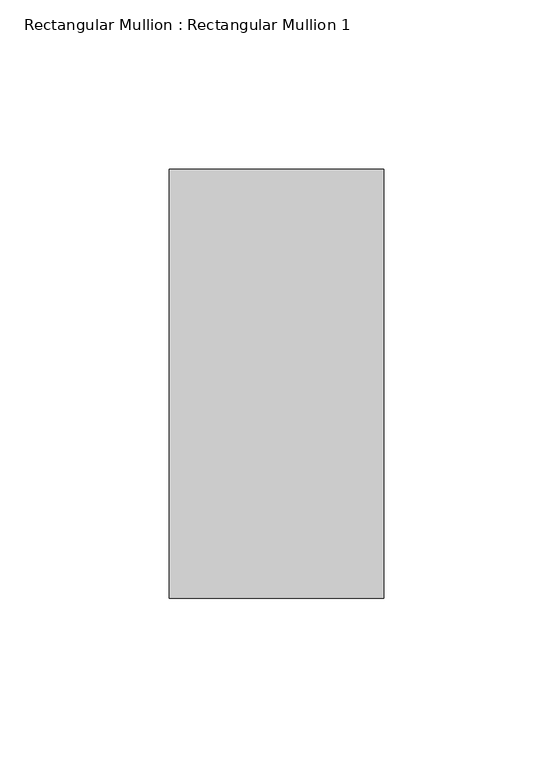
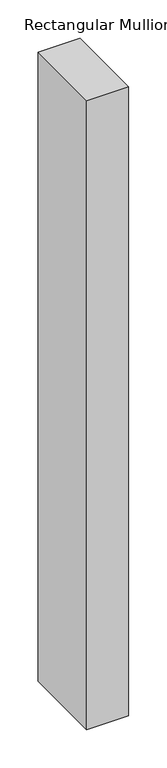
"""IFC4 building model written with IfcOpenShell, lengths in millimetres: member geometry, Rectangular Mullion : Rectangular Mullion 1."""

from ifc_helpers import new_model, si_unit, frame, origin, place, context, project, spatial, polyline, outline, extrude, source, transform, mapped, element, save


def rectangular_mullion_rectangular_mullion_1_16b13197(model_context):
    return source(origin(), model_context, "Body", "SweptSolid", [
        extrude(outline(polyline([(0.0, 63.5), (0.0, -63.5), (-63.5, -63.5), (-63.5, 63.5), (0.0, 63.5)])), frame((0.0, 0.0, -1003.2999999), z_axis=(0.0, 0.0, 1.0), x_axis=(1.0, 0.0, 0.0)), (0.0, 0.0, 1.0), 1003.2999999),
    ])


if __name__ == "__main__":
    model = new_model("IFC4")
    model_context = context("Model", 3, world=origin())
    ifc_project = project(units=[si_unit("LENGTHUNIT", "METRE", prefix="MILLI")], contexts=[model_context])
    site = spatial("IfcSite", under=ifc_project)
    building = spatial("IfcBuilding", under=site)
    placement = place(None, origin())
    rectangular_mullion_rectangular_mullion_1_shape = rectangular_mullion_rectangular_mullion_1_16b13197(model_context)
    element("IfcMember", 1, ObjectType="Rectangular Mullion : Rectangular Mullion 1", at=placement, inside=building, context=model_context, shape_type="MappedRepresentation", body=[
        mapped(rectangular_mullion_rectangular_mullion_1_shape, transform((0.0, 0.0, 0.0), x_axis=(1.0, 0.0, 0.0), y_axis=(0.0, 1.0, 0.0), z_axis=(0.0, 0.0, 1.0))),
    ])
    save(model, "model.ifc")
